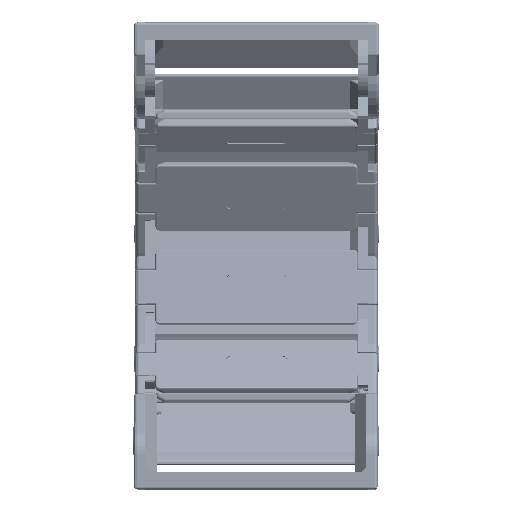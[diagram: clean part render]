
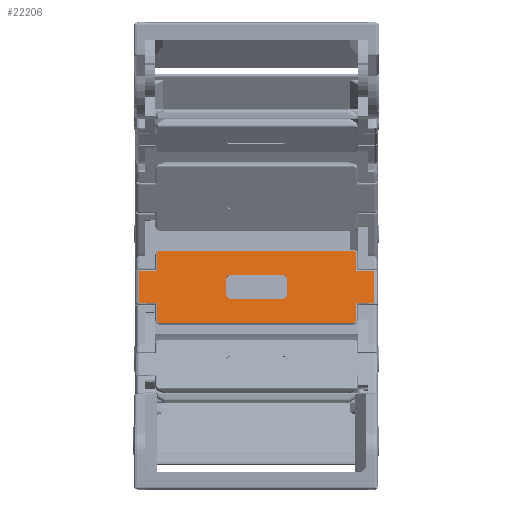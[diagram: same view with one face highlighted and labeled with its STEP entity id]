
A CAD part, front view. The second image highlights one B-rep face of the part: STEP entity #22206.
In plain terms, the highlighted planar face has unit normal (0, -0.985, 0.173).
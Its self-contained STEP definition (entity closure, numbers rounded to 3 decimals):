
#744=FACE_BOUND('',#50115,.T.);
#745=FACE_BOUND('',#50116,.T.);
#12269=CIRCLE('',#208172,0.45);
#12270=CIRCLE('',#208173,0.45);
#12271=CIRCLE('',#208174,0.45);
#12272=CIRCLE('',#208175,0.45);
#12273=CIRCLE('',#208176,1.);
#12274=CIRCLE('',#208177,1.);
#12275=CIRCLE('',#208178,1.);
#12276=CIRCLE('',#208179,1.);
#22206=ADVANCED_FACE('',(#744,#745),#31976,.T.);
#31976=PLANE('',#208180);
#50115=EDGE_LOOP('',(#110572,#110573,#110574,#110575,#110576,#110577,#110578,
#110579,#110580,#110581,#110582,#110583,#110584,#110585,#110586,#110587));
#50116=EDGE_LOOP('',(#110588,#110589,#110590,#110591,#110592,#110593,#110594,
#110595));
#66393=LINE('',#312271,#82199);
#66394=LINE('',#312276,#82200);
#66395=LINE('',#312278,#82201);
#66396=LINE('',#312280,#82202);
#66397=LINE('',#312282,#82203);
#66398=LINE('',#312284,#82204);
#66399=LINE('',#312288,#82205);
#66400=LINE('',#312292,#82206);
#66401=LINE('',#312294,#82207);
#66402=LINE('',#312296,#82208);
#66403=LINE('',#312298,#82209);
#66404=LINE('',#312300,#82210);
#66405=LINE('',#312306,#82211);
#66406=LINE('',#312310,#82212);
#66407=LINE('',#312314,#82213);
#66408=LINE('',#312318,#82214);
#82199=VECTOR('',#241592,1.);
#82200=VECTOR('',#241595,1.);
#82201=VECTOR('',#241596,1.);
#82202=VECTOR('',#241597,1.);
#82203=VECTOR('',#241598,1.);
#82204=VECTOR('',#241599,1.);
#82205=VECTOR('',#241602,1.);
#82206=VECTOR('',#241605,1.);
#82207=VECTOR('',#241606,1.);
#82208=VECTOR('',#241607,1.);
#82209=VECTOR('',#241608,1.);
#82210=VECTOR('',#241609,1.);
#82211=VECTOR('',#241614,1.);
#82212=VECTOR('',#241617,1.);
#82213=VECTOR('',#241620,1.);
#82214=VECTOR('',#241623,1.);
#110572=ORIENTED_EDGE('',*,*,#178911,.T.);
#110573=ORIENTED_EDGE('',*,*,#178912,.F.);
#110574=ORIENTED_EDGE('',*,*,#178913,.T.);
#110575=ORIENTED_EDGE('',*,*,#178914,.T.);
#110576=ORIENTED_EDGE('',*,*,#178915,.T.);
#110577=ORIENTED_EDGE('',*,*,#178916,.T.);
#110578=ORIENTED_EDGE('',*,*,#178917,.T.);
#110579=ORIENTED_EDGE('',*,*,#178918,.T.);
#110580=ORIENTED_EDGE('',*,*,#178919,.T.);
#110581=ORIENTED_EDGE('',*,*,#178920,.T.);
#110582=ORIENTED_EDGE('',*,*,#178921,.T.);
#110583=ORIENTED_EDGE('',*,*,#178922,.T.);
#110584=ORIENTED_EDGE('',*,*,#178923,.F.);
#110585=ORIENTED_EDGE('',*,*,#178924,.T.);
#110586=ORIENTED_EDGE('',*,*,#178925,.T.);
#110587=ORIENTED_EDGE('',*,*,#178926,.T.);
#110588=ORIENTED_EDGE('',*,*,#178927,.T.);
#110589=ORIENTED_EDGE('',*,*,#178928,.T.);
#110590=ORIENTED_EDGE('',*,*,#178929,.T.);
#110591=ORIENTED_EDGE('',*,*,#178930,.T.);
#110592=ORIENTED_EDGE('',*,*,#178931,.T.);
#110593=ORIENTED_EDGE('',*,*,#178932,.T.);
#110594=ORIENTED_EDGE('',*,*,#178933,.T.);
#110595=ORIENTED_EDGE('',*,*,#178934,.T.);
#157619=VERTEX_POINT('',#312272);
#157620=VERTEX_POINT('',#312273);
#157621=VERTEX_POINT('',#312275);
#157622=VERTEX_POINT('',#312277);
#157623=VERTEX_POINT('',#312279);
#157624=VERTEX_POINT('',#312281);
#157625=VERTEX_POINT('',#312283);
#157626=VERTEX_POINT('',#312285);
#157627=VERTEX_POINT('',#312287);
#157628=VERTEX_POINT('',#312289);
#157629=VERTEX_POINT('',#312291);
#157630=VERTEX_POINT('',#312293);
#157631=VERTEX_POINT('',#312295);
#157632=VERTEX_POINT('',#312297);
#157633=VERTEX_POINT('',#312299);
#157634=VERTEX_POINT('',#312301);
#157635=VERTEX_POINT('',#312304);
#157636=VERTEX_POINT('',#312305);
#157637=VERTEX_POINT('',#312307);
#157638=VERTEX_POINT('',#312309);
#157639=VERTEX_POINT('',#312311);
#157640=VERTEX_POINT('',#312313);
#157641=VERTEX_POINT('',#312315);
#157642=VERTEX_POINT('',#312317);
#178911=EDGE_CURVE('',#157619,#157620,#66393,.T.);
#178912=EDGE_CURVE('',#157621,#157620,#12269,.T.);
#178913=EDGE_CURVE('',#157621,#157622,#66394,.T.);
#178914=EDGE_CURVE('',#157622,#157623,#66395,.T.);
#178915=EDGE_CURVE('',#157623,#157624,#66396,.T.);
#178916=EDGE_CURVE('',#157624,#157625,#66397,.T.);
#178917=EDGE_CURVE('',#157625,#157626,#66398,.T.);
#178918=EDGE_CURVE('',#157626,#157627,#12270,.T.);
#178919=EDGE_CURVE('',#157627,#157628,#66399,.T.);
#178920=EDGE_CURVE('',#157628,#157629,#12271,.T.);
#178921=EDGE_CURVE('',#157629,#157630,#66400,.T.);
#178922=EDGE_CURVE('',#157630,#157631,#66401,.T.);
#178923=EDGE_CURVE('',#157632,#157631,#66402,.T.);
#178924=EDGE_CURVE('',#157632,#157633,#66403,.T.);
#178925=EDGE_CURVE('',#157633,#157634,#66404,.T.);
#178926=EDGE_CURVE('',#157634,#157619,#12272,.T.);
#178927=EDGE_CURVE('',#157635,#157636,#12273,.T.);
#178928=EDGE_CURVE('',#157636,#157637,#66405,.T.);
#178929=EDGE_CURVE('',#157637,#157638,#12274,.T.);
#178930=EDGE_CURVE('',#157638,#157639,#66406,.T.);
#178931=EDGE_CURVE('',#157639,#157640,#12275,.T.);
#178932=EDGE_CURVE('',#157640,#157641,#66407,.T.);
#178933=EDGE_CURVE('',#157641,#157642,#12276,.T.);
#178934=EDGE_CURVE('',#157642,#157635,#66408,.T.);
#208172=AXIS2_PLACEMENT_3D('',#312274,#241593,#241594);
#208173=AXIS2_PLACEMENT_3D('',#312286,#241600,#241601);
#208174=AXIS2_PLACEMENT_3D('',#312290,#241603,#241604);
#208175=AXIS2_PLACEMENT_3D('',#312302,#241610,#241611);
#208176=AXIS2_PLACEMENT_3D('',#312303,#241612,#241613);
#208177=AXIS2_PLACEMENT_3D('',#312308,#241615,#241616);
#208178=AXIS2_PLACEMENT_3D('',#312312,#241618,#241619);
#208179=AXIS2_PLACEMENT_3D('',#312316,#241621,#241622);
#208180=AXIS2_PLACEMENT_3D('',#312319,#241624,#241625);
#241592=DIRECTION('',(1.,0.,0.));
#241593=DIRECTION('',(0.,0.985,-0.174));
#241594=DIRECTION('',(1.,0.,0.));
#241595=DIRECTION('',(0.,0.174,0.985));
#241596=DIRECTION('',(1.,0.,0.));
#241597=DIRECTION('',(0.,0.174,0.985));
#241598=DIRECTION('',(-1.,0.,0.));
#241599=DIRECTION('',(0.,0.174,0.985));
#241600=DIRECTION('',(0.,-0.985,0.174));
#241601=DIRECTION('',(1.,0.,0.));
#241602=DIRECTION('',(-1.,0.,0.));
#241603=DIRECTION('',(0.,-0.985,0.174));
#241604=DIRECTION('',(1.,0.,0.));
#241605=DIRECTION('',(0.,-0.174,-0.985));
#241606=DIRECTION('',(-1.,0.,0.));
#241607=DIRECTION('',(0.,0.174,0.985));
#241608=DIRECTION('',(1.,0.,0.));
#241609=DIRECTION('',(0.,-0.174,-0.985));
#241610=DIRECTION('',(0.,-0.985,0.174));
#241611=DIRECTION('',(1.,0.,0.));
#241612=DIRECTION('',(0.,0.985,-0.174));
#241613=DIRECTION('',(1.,0.,0.));
#241614=DIRECTION('',(0.,-0.174,-0.985));
#241615=DIRECTION('',(0.,0.985,-0.174));
#241616=DIRECTION('',(1.,0.,0.));
#241617=DIRECTION('',(-1.,0.,0.));
#241618=DIRECTION('',(0.,0.985,-0.174));
#241619=DIRECTION('',(1.,0.,0.));
#241620=DIRECTION('',(0.,0.174,0.985));
#241621=DIRECTION('',(0.,0.985,-0.174));
#241622=DIRECTION('',(1.,0.,0.));
#241623=DIRECTION('',(1.,0.,0.));
#241624=DIRECTION('',(0.,-0.985,0.174));
#241625=DIRECTION('',(1.,0.,0.));
#312271=CARTESIAN_POINT('',(-47.25,306.887,23.609));
#312272=CARTESIAN_POINT('',(-53.25,306.887,23.609));
#312273=CARTESIAN_POINT('',(-14.55,306.887,23.609));
#312274=CARTESIAN_POINT('',(-14.55,306.965,24.052));
#312275=CARTESIAN_POINT('',(-14.1,306.965,24.052));
#312276=CARTESIAN_POINT('',(-14.1,304.871,12.168));
#312277=CARTESIAN_POINT('',(-14.1,307.581,27.548));
#312278=CARTESIAN_POINT('',(-47.25,307.581,27.548));
#312279=CARTESIAN_POINT('',(-10.55,307.581,27.548));
#312280=CARTESIAN_POINT('',(-10.55,304.871,12.168));
#312281=CARTESIAN_POINT('',(-10.55,308.691,33.851));
#312282=CARTESIAN_POINT('',(-47.25,308.691,33.851));
#312283=CARTESIAN_POINT('',(-14.1,308.691,33.851));
#312284=CARTESIAN_POINT('',(-14.1,304.871,12.168));
#312285=CARTESIAN_POINT('',(-14.1,309.307,37.347));
#312286=CARTESIAN_POINT('',(-14.55,309.307,37.347));
#312287=CARTESIAN_POINT('',(-14.55,309.385,37.791));
#312288=CARTESIAN_POINT('',(-47.25,309.385,37.791));
#312289=CARTESIAN_POINT('',(-53.25,309.385,37.791));
#312290=CARTESIAN_POINT('',(-53.25,309.307,37.347));
#312291=CARTESIAN_POINT('',(-53.7,309.307,37.347));
#312292=CARTESIAN_POINT('',(-53.7,304.871,12.168));
#312293=CARTESIAN_POINT('',(-53.7,308.691,33.851));
#312294=CARTESIAN_POINT('',(-47.25,308.691,33.851));
#312295=CARTESIAN_POINT('',(-57.25,308.691,33.851));
#312296=CARTESIAN_POINT('',(-57.25,304.871,12.168));
#312297=CARTESIAN_POINT('',(-57.25,307.581,27.548));
#312298=CARTESIAN_POINT('',(-47.25,307.581,27.548));
#312299=CARTESIAN_POINT('',(-53.7,307.581,27.548));
#312300=CARTESIAN_POINT('',(-53.7,304.871,12.168));
#312301=CARTESIAN_POINT('',(-53.7,306.965,24.052));
#312302=CARTESIAN_POINT('',(-53.25,306.965,24.052));
#312303=CARTESIAN_POINT('',(-28.9,308.396,32.177));
#312304=CARTESIAN_POINT('',(-28.9,308.57,33.162));
#312305=CARTESIAN_POINT('',(-27.9,308.396,32.177));
#312306=CARTESIAN_POINT('',(-27.9,304.871,12.168));
#312307=CARTESIAN_POINT('',(-27.9,307.876,29.222));
#312308=CARTESIAN_POINT('',(-28.9,307.876,29.222));
#312309=CARTESIAN_POINT('',(-28.9,307.702,28.238));
#312310=CARTESIAN_POINT('',(-47.25,307.702,28.238));
#312311=CARTESIAN_POINT('',(-38.9,307.702,28.238));
#312312=CARTESIAN_POINT('',(-38.9,307.876,29.222));
#312313=CARTESIAN_POINT('',(-39.9,307.876,29.222));
#312314=CARTESIAN_POINT('',(-39.9,304.871,12.168));
#312315=CARTESIAN_POINT('',(-39.9,308.396,32.177));
#312316=CARTESIAN_POINT('',(-38.9,308.396,32.177));
#312317=CARTESIAN_POINT('',(-38.9,308.57,33.162));
#312318=CARTESIAN_POINT('',(-47.25,308.57,33.162));
#312319=CARTESIAN_POINT('',(-47.25,304.871,12.168));
